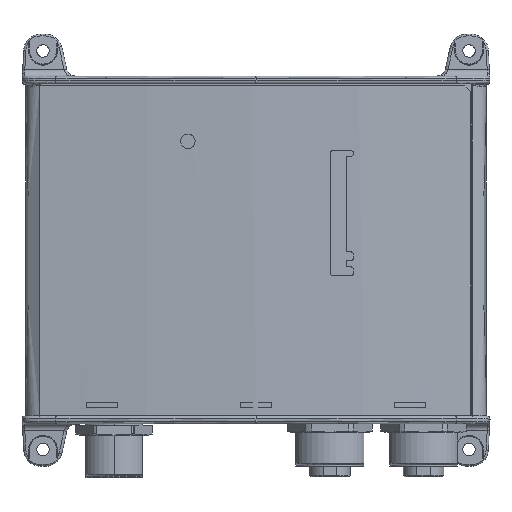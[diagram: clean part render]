
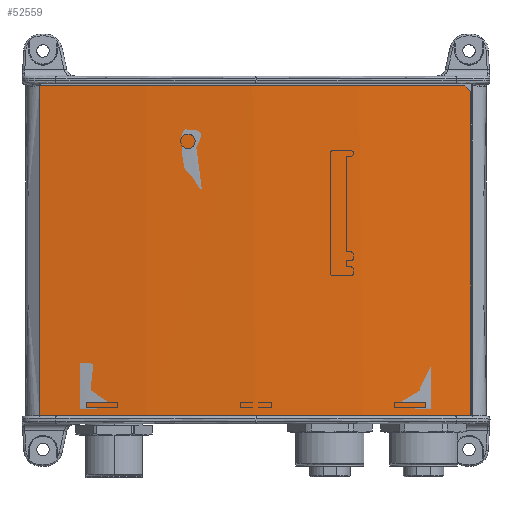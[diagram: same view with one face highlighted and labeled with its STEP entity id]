
A CAD part, top view. The second image highlights one B-rep face of the part: STEP entity #52559.
In plain terms, the highlighted cylindrical face has radius 597.11 mm (diameter 1194.22 mm), a partial arc.
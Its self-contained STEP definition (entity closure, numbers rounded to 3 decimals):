
#8957 = VERTEX_POINT ( 'NONE', #138737 ) ;
#18742 = EDGE_CURVE ( 'NONE', #52183, #111746, #159815, .T. ) ;
#23862 = DIRECTION ( 'NONE',  ( 0., -1., 0. ) ) ;
#26693 = EDGE_CURVE ( 'NONE', #83277, #8957, #100400, .T. ) ;
#27089 = AXIS2_PLACEMENT_3D ( 'NONE', #44383, #58696, #150065 ) ;
#28743 = CARTESIAN_POINT ( 'NONE',  ( -592.527, 58., 73.842 ) ) ;
#30701 = LINE ( 'NONE', #41763, #160491 ) ;
#35002 = DIRECTION ( 'NONE',  ( 0., 0., -1. ) ) ;
#35648 = CYLINDRICAL_SURFACE ( 'NONE', #120052, 597.11 ) ;
#35718 = VERTEX_POINT ( 'NONE', #43196 ) ;
#36642 = VECTOR ( 'NONE', #23862, 1000. ) ;
#37520 = CARTESIAN_POINT ( 'NONE',  ( -592.276, 58., -75.827 ) ) ;
#41763 = CARTESIAN_POINT ( 'NONE',  ( -592.276, 191.279, -75.827 ) ) ;
#43196 = CARTESIAN_POINT ( 'NONE',  ( -592.276, 56., 75.827 ) ) ;
#44383 = CARTESIAN_POINT ( 'NONE',  ( 0., -58., 0. ) ) ;
#50014 = CARTESIAN_POINT ( 'NONE',  ( 0., 191.279, 0. ) ) ;
#52183 = VERTEX_POINT ( 'NONE', #37520 ) ;
#52559 = ADVANCED_FACE ( 'NONE', ( #61864 ), #35648, .T. ) ;
#54567 = EDGE_CURVE ( 'NONE', #8957, #52183, #30701, .T. ) ;
#56604 = CARTESIAN_POINT ( 'NONE',  ( -592.444, 57.333, 74.504 ) ) ;
#57698 = ORIENTED_EDGE ( 'NONE', *, *, #54567, .F. ) ;
#58696 = DIRECTION ( 'NONE',  ( 0., -1., 0. ) ) ;
#58982 = ORIENTED_EDGE ( 'NONE', *, *, #18742, .F. ) ;
#59624 = EDGE_CURVE ( 'NONE', #111746, #35718, #116036, .T. ) ;
#61864 = FACE_OUTER_BOUND ( 'NONE', #74400, .T. ) ;
#74400 = EDGE_LOOP ( 'NONE', ( #76143, #158753, #140941, #58982, #57698 ) ) ;
#76143 = ORIENTED_EDGE ( 'NONE', *, *, #26693, .F. ) ;
#80330 = CARTESIAN_POINT ( 'NONE',  ( -592.361, 56.667, 75.165 ) ) ;
#81406 = AXIS2_PLACEMENT_3D ( 'NONE', #166112, #114487, #35002 ) ;
#83277 = VERTEX_POINT ( 'NONE', #138028 ) ;
#98163 = CARTESIAN_POINT ( 'NONE',  ( -592.527, 58., 73.842 ) ) ;
#100400 = CIRCLE ( 'NONE', #27089, 597.11 ) ;
#101628 = DIRECTION ( 'NONE',  ( 0., 0., -1. ) ) ;
#106016 = DIRECTION ( 'NONE',  ( 0., 1., 0. ) ) ;
#110282 = EDGE_CURVE ( 'NONE', #35718, #83277, #165982, .T. ) ;
#111746 = VERTEX_POINT ( 'NONE', #98163 ) ;
#113475 = DIRECTION ( 'NONE',  ( 0., -1., 0. ) ) ;
#114487 = DIRECTION ( 'NONE',  ( 0., 1., 0. ) ) ;
#116036 = B_SPLINE_CURVE_WITH_KNOTS ( 'NONE', 3,
 ( #28743, #56604, #80330, #131104 ),
 .UNSPECIFIED., .F., .F.,
 ( 4, 4 ),
 ( 0., 1. ),
 .UNSPECIFIED. ) ;
#120052 = AXIS2_PLACEMENT_3D ( 'NONE', #50014, #113475, #101628 ) ;
#131104 = CARTESIAN_POINT ( 'NONE',  ( -592.276, 56., 75.827 ) ) ;
#138028 = CARTESIAN_POINT ( 'NONE',  ( -592.276, -58., 75.827 ) ) ;
#138737 = CARTESIAN_POINT ( 'NONE',  ( -592.276, -58., -75.827 ) ) ;
#139767 = CARTESIAN_POINT ( 'NONE',  ( -592.276, 191.279, 75.827 ) ) ;
#140941 = ORIENTED_EDGE ( 'NONE', *, *, #59624, .F. ) ;
#150065 = DIRECTION ( 'NONE',  ( 0., 0., -1. ) ) ;
#158753 = ORIENTED_EDGE ( 'NONE', *, *, #110282, .F. ) ;
#159815 = CIRCLE ( 'NONE', #81406, 597.11 ) ;
#160491 = VECTOR ( 'NONE', #106016, 1000. ) ;
#165982 = LINE ( 'NONE', #139767, #36642 ) ;
#166112 = CARTESIAN_POINT ( 'NONE',  ( 0., 58., 0. ) ) ;
